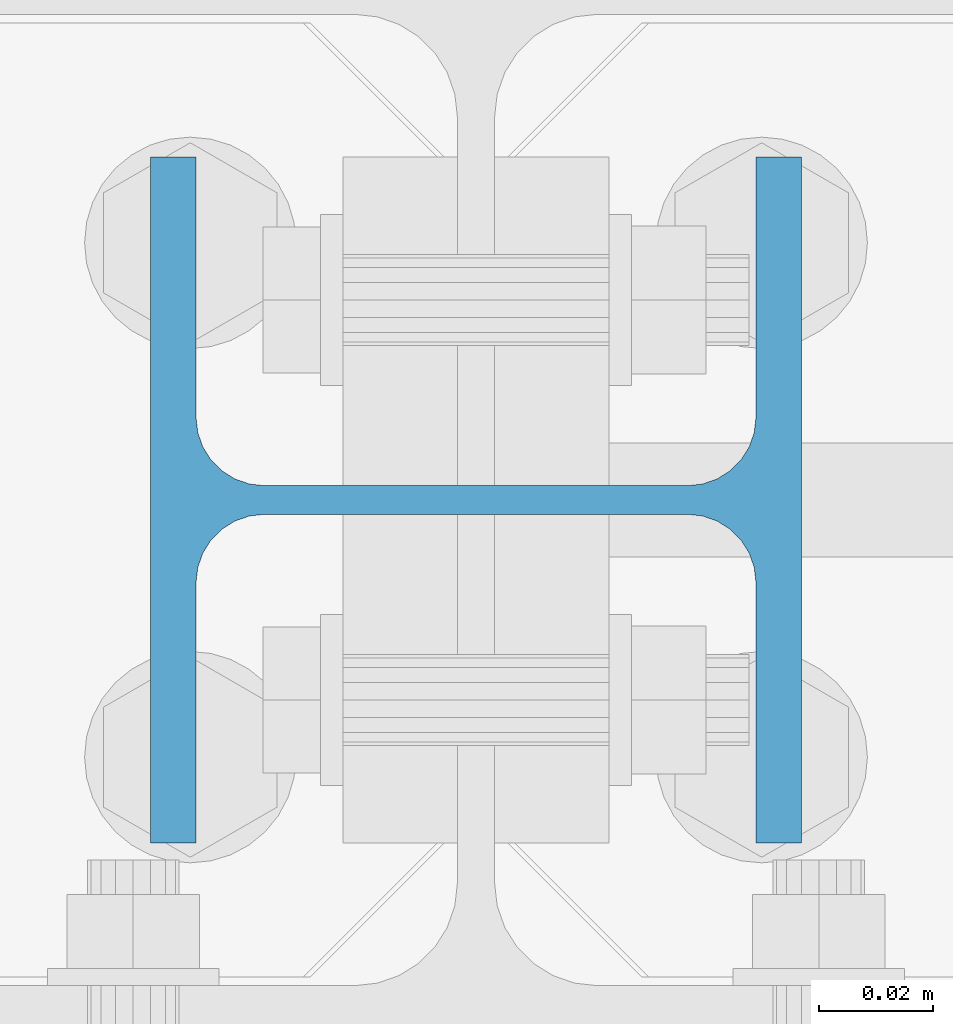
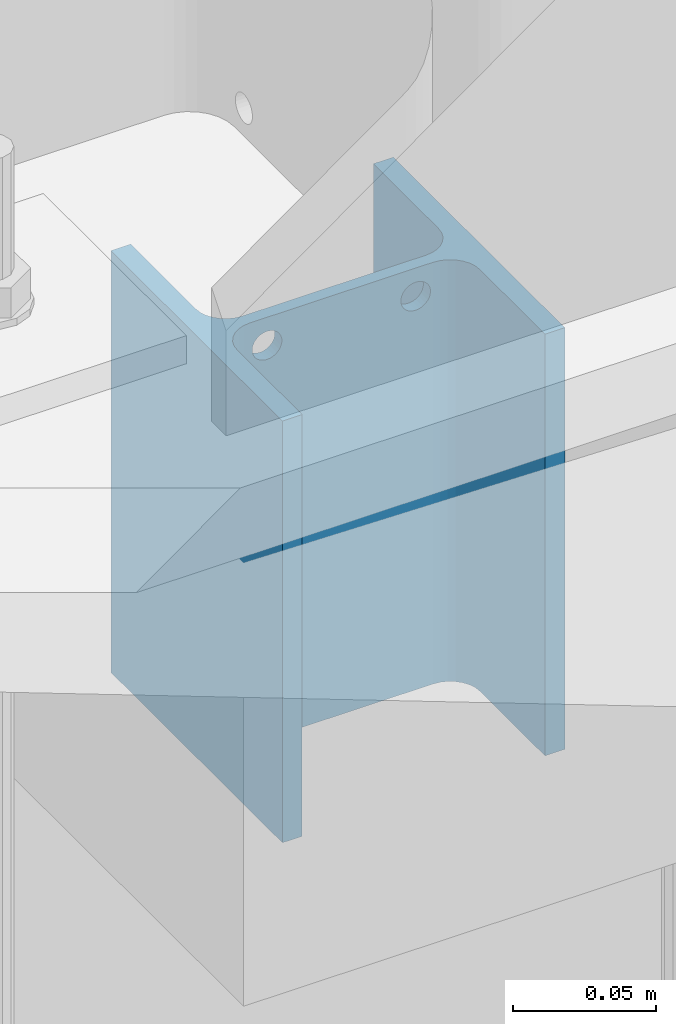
# One storey, part 63 of 825: 1 column, 2 openings.
"""IFC2X3 building model written with IfcOpenShell, lengths in millimetres."""

from ifc_helpers import new_model, entity, si_unit, converted_unit, frame, origin, origin_with_axes, origin_2d, origin_2d_with_axis, place, context, project, spatial, circle, i_section, extrude, material, element, save


model = new_model("IFC2X3")

# Units and contexts
model_context = context("Model", 3, precision=1e-09, world=origin_with_axes())
ifc_project = project(units=[si_unit("LENGTHUNIT", "METRE", prefix="MILLI"), si_unit("AREAUNIT", "SQUARE_METRE"), si_unit("VOLUMEUNIT", "CUBIC_METRE"), converted_unit("PLANEANGLEUNIT", "DEGREE", entity("IfcPlaneAngleMeasure", 0.01745329), si_unit("PLANEANGLEUNIT", "RADIAN"), dimensions=[0, 0, 0, 0, 0, 0, 0])], contexts=[model_context])

# Site, building, storey
site_placement = place(None, origin_with_axes())
site = spatial("IfcSite", under=ifc_project, at=site_placement, Name="Cnopf'sche Kinderklinik", CompositionType="ELEMENT")
building_placement = place(site_placement, origin_with_axes())
building = spatial("IfcBuilding", under=site, at=building_placement, Name="Struktur 1", CompositionType="ELEMENT")
storey_placement = place(building_placement, origin_with_axes())
storey = spatial("IfcBuildingStorey", under=building, at=storey_placement, Name="Default Storey", CompositionType="ELEMENT", Elevation=0.0)

# Column, openings
ifc_material = material(Name="S235JR")
column_placement = place(None, frame((4856.713402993, 7516.736971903, 30.0), z_axis=(0.0, 0.0, 1.0), x_axis=(0.0, -1.0, 0.0)))
column = element("IfcColumn", 1, at=column_placement, inside=storey, material=ifc_material, Name="-", ObjectType="-", context=model_context, shape_type="SweptSolid", body=[
    extrude(i_section(OverallWidth=120.0, OverallDepth=114.0, WebThickness=5.0, FlangeThickness=8.0, FilletRadius=12.0, at=origin_2d()), origin(), (0.0, 0.0, -1.0), 180.0),
])
opening_1_placement = place(column_placement, frame((-3.0, 30.0, -12.0), z_axis=(1.0, 0.0, 0.0), x_axis=(0.0, 0.0, -1.0)))
element("IfcOpeningElement", 2, at=opening_1_placement, cuts=column, ObjectType="Opening", context=model_context, shape_type="SweptSolid", body=[
    extrude(circle(Radius=6.001, at=origin_2d_with_axis()), origin(), (0.0, 0.0, 1.0), 6.0),
])
opening_2_placement = place(column_placement, frame((-3.0, -30.0, -12.0), z_axis=(1.0, 0.0, 0.0), x_axis=(0.0, 0.0, -1.0)))
element("IfcOpeningElement", 3, at=opening_2_placement, cuts=column, ObjectType="Opening", context=model_context, shape_type="SweptSolid", body=[
    extrude(circle(Radius=6.001, at=origin_2d_with_axis()), origin(), (0.0, 0.0, 1.0), 6.0),
])

save(model, "model.ifc")
